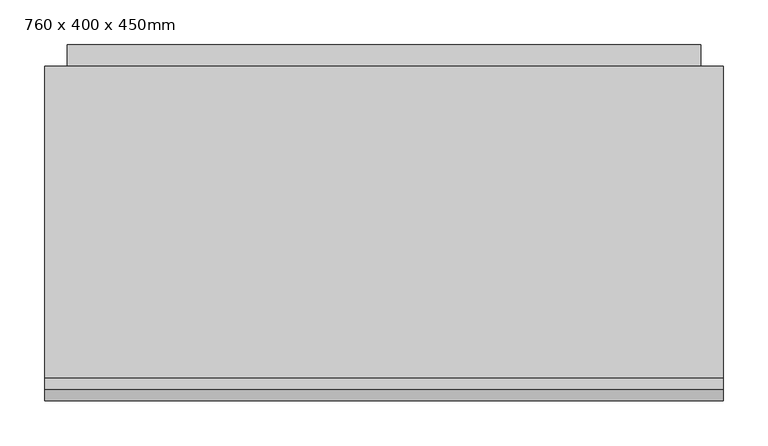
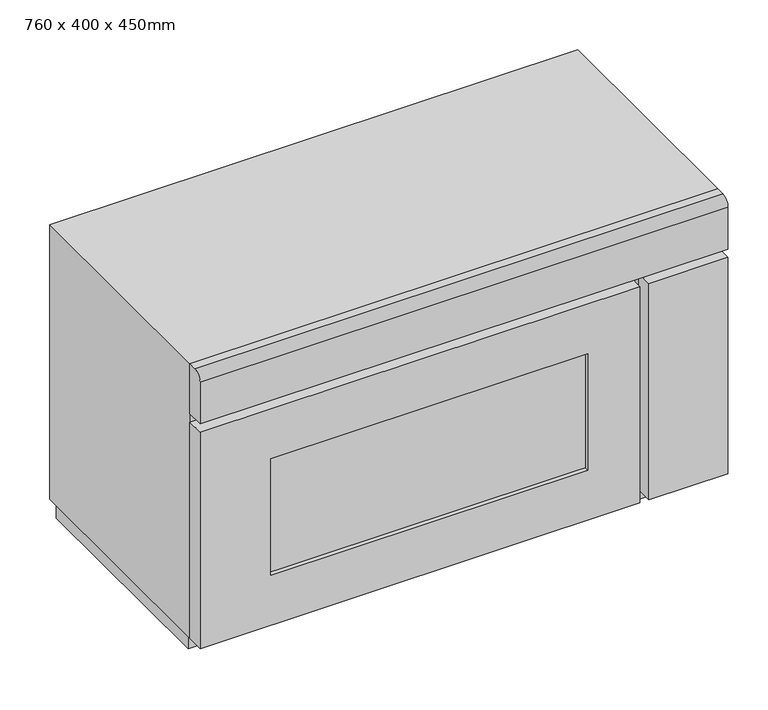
"""IFC4 building model written with IfcOpenShell, lengths in millimetres: proxy geometry, 微波炉 : 760 x 400 x 450mm."""

from ifc_helpers import new_model, si_unit, point, frame, frame_2d, origin, place, context, project, spatial, polyline, circle_curve, trimmed, segment, composite_curve, outline, extrude, faceted_brep, source, transform, mapped, element, save


def proxy_760_x_400_x_450mm_fc9afc05(model_context):
    return source(origin(), model_context, "Body", "SolidModel", [
        extrude(outline(polyline([(678.4897523, -546.7305058), (221.8928773, -546.7305058), (221.8928773, -540.3805058), (678.4897523, -540.3805058), (678.4897523, -546.7305058)])), frame((0.0, 0.0, 1022.35), z_axis=(0.0, 0.0, 1.0), x_axis=(1.0, 0.0, 0.0)), (0.0, 0.0, 1.0), 176.95),
        extrude(outline(polyline([(1275.5, 753.6897523), (1275.5, 120.2928773), (946.15, 120.2928773), (946.15, 753.6897523), (1275.5, 753.6897523)]), holes=[polyline([(1199.3, 678.4897523), (1022.35, 678.4897523), (1022.35, 221.8928773), (1199.3, 221.8928773), (1199.3, 678.4897523)])]), frame((0.0, -553.0805058, 0.0), z_axis=(0.0, 1.0, 0.0), x_axis=(0.0, 0.0, 1.0)), (0.0, 0.0, 1.0), 25.4),
        extrude(outline(polyline([(880.2928773, -553.0805058), (766.3897523, -553.0805058), (766.3897523, -527.6805058), (880.2928773, -527.6805058), (880.2928773, -553.0805058)])), frame((0.0, 0.0, 946.15), z_axis=(0.0, 0.0, 1.0), x_axis=(1.0, 0.0, 0.0)), (0.0, 0.0, 1.0), 329.35),
        extrude(outline(composite_curve([segment(polyline([(-540.3805058, 1364.4), (-527.6805058, 1364.4), (-527.6805058, 1288.2), (-553.0805058, 1288.2), (-553.0805058, 1351.7)]), True, "CONTINUOUS"), segment(trimmed(circle_curve(frame_2d((-540.3805058, 1351.7)), 12.7), [point((-553.0805058, 1351.7))], [point((-540.3805058, 1364.4))], False, "CARTESIAN"), True, "CONTINUOUS")], self_intersect=False)), frame((120.2928773, 0.0, 0.0), z_axis=(1.0, 0.0, 0.0), x_axis=(0.0, 1.0, 0.0)), (0.0, 0.0, 1.0), 760.0),
        extrude(outline(polyline([(-154.2441495, 1339.0), (-154.2441495, 961.946551), (-179.6441495, 936.546551), (-179.6441495, 1339.0), (-154.2441495, 1339.0)])), frame((145.6928773, 0.0, 0.0), z_axis=(1.0, 0.0, 0.0), x_axis=(0.0, 1.0, 0.0)), (0.0, 0.0, 1.0), 709.2),
        faceted_brep([(880.2928773, -178.4805058, 1364.4), (120.2928773, -178.4805058, 1364.4), (120.2928773, -527.6805058, 1364.4), (880.2928773, -527.6805058, 1364.4), (880.2928773, -178.4805058, 946.15), (880.2928773, -527.6805058, 946.15), (120.2928773, -527.6805058, 946.15), (120.2928773, -178.4805058, 946.15), (823.5397523, -527.6805058, 1271.0014904), (823.5397523, -527.6805058, 1020.1764904), (177.0460023, -527.6805058, 1020.1764904), (177.0460023, -527.6805058, 1271.0014904), (823.5397523, -197.4805058, 1271.0014904), (177.0460023, -197.4805058, 1271.0014904), (177.0460023, -197.4805058, 1020.1764904), (823.5397523, -197.4805058, 1020.1764904)], [[[0, 1, 2, 3]], [[4, 5, 6, 7]], [[1, 0, 4, 7]], [[2, 1, 7, 6]], [[3, 2, 6, 5], [8, 9, 10, 11]], [[0, 3, 5, 4]], [[12, 13, 14, 15]], [[12, 15, 9, 8]], [[15, 14, 10, 9]], [[14, 13, 11, 10]], [[13, 12, 8, 11]]]),
        extrude(outline(polyline([(870.7678773, -178.4805058), (870.7678773, -507.0430058), (129.8178773, -507.0430058), (129.8178773, -178.4805058), (870.7678773, -178.4805058)])), frame((0.0, 0.0, 914.4), z_axis=(0.0, 0.0, 1.0), x_axis=(1.0, 0.0, 0.0)), (0.0, 0.0, 1.0), 31.75),
    ])


if __name__ == "__main__":
    model = new_model("IFC4")
    model_context = context("Model", 3, world=origin())
    ifc_project = project(units=[si_unit("LENGTHUNIT", "METRE", prefix="MILLI")], contexts=[model_context])
    site = spatial("IfcSite", under=ifc_project)
    building = spatial("IfcBuilding", under=site)
    placement = place(None, origin())
    proxy_760_x_400_x_450mm_shape = proxy_760_x_400_x_450mm_fc9afc05(model_context)
    element("IfcBuildingElementProxy", 1, Name="微波炉 : 760 x 400 x 450mm", ObjectType="微波炉 : 760 x 400 x 450mm", at=placement, inside=building, context=model_context, shape_type="MappedRepresentation", body=[
        mapped(proxy_760_x_400_x_450mm_shape, transform((0.0, 0.0, 0.0), x_axis=(1.0, 0.0, 0.0), y_axis=(0.0, 1.0, 0.0), z_axis=(0.0, 0.0, 1.0))),
    ])
    save(model, "model.ifc")
